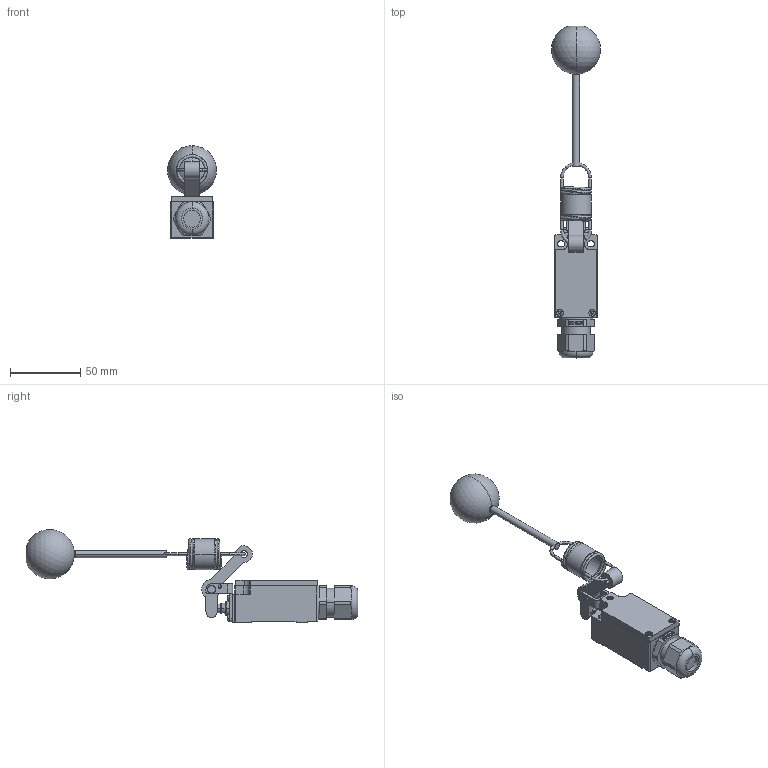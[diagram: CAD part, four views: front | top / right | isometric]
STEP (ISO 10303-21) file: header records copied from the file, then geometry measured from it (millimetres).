
FILE_DESCRIPTION((''),'2;1');
FILE_NAME('95014304','2011-12-12T',('SHarbsmeier'),(''),'PRO/ENGINEER BY PARAMETRIC TECHNOLOGY CORPORATION, 2007030','PRO/ENGINEER BY PARAMETRIC TECHNOLOGY CORPORATION, 2007030','');
FILE_SCHEMA(('CONFIG_CONTROL_DESIGN'));
Length unit declared in the file: millimetre
Products named in the file (1): 95014304
Bounding box: 34.65 x 235.77 x 65.95 mm (x, y, z)
Surface area: 28036.4 mm2 (no closed solid volume)
Topology: 0 solids, 27 shells, 381 faces, 1442 edges, 1079 vertices
Faces by surface type: plane 194, cylinder 123, torus 28, cone 18, sphere 14, bspline 4
Entity records: 18756 total; most frequent: CARTESIAN_POINT 6340, DIRECTION 2635, ORIENTED_EDGE 2328, EDGE_CURVE 1442, VERTEX_POINT 1079, VECTOR 903, LINE 903, AXIS2_PLACEMENT_3D 866
